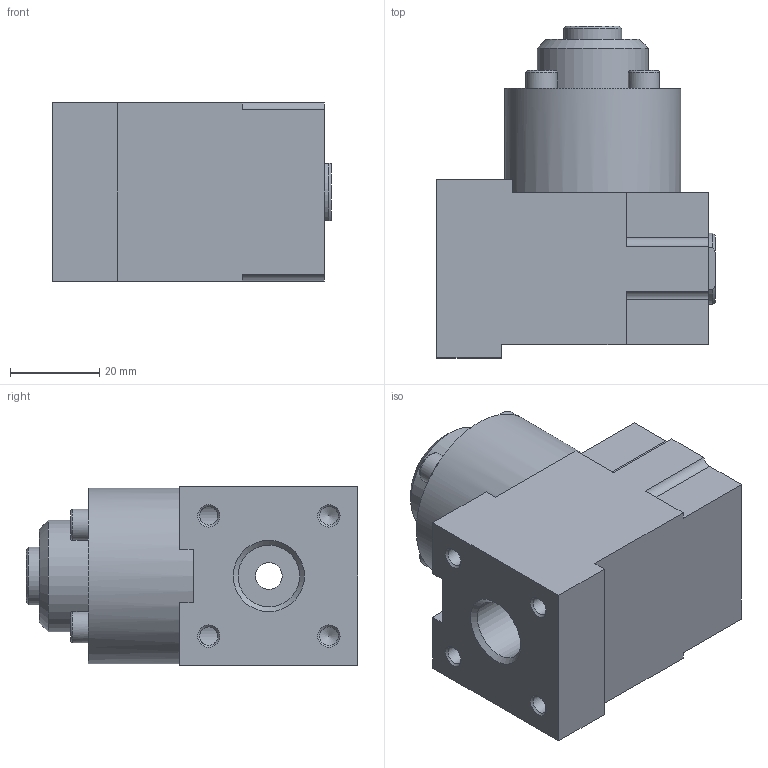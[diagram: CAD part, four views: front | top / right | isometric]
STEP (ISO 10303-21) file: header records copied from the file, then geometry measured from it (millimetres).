
FILE_DESCRIPTION( ( 'STEP AP214' ), ' ' );
FILE_NAME( 'p:/temp/worker_48/3100_3564/app_60_02016022515293667641020192d056f_000000_00_00_000000/format_1/L1-N01606.stp', '2016-02-25T14:29:38', ( '' ), ( '' ), ' ', 'PARTsolutions', ' ' );
FILE_SCHEMA( ( 'AUTOMOTIVE_DESIGN { 1 0 10303 214 1 1 1 1 }' ) );
Length unit declared in the file: millimetre
Products named in the file (1): _L1-N01606
Bounding box: 62.5 x 74.5 x 40 mm (x, y, z)
Volume: 113972.9 mm3; surface area: 19496.1 mm2
Topology: 1 solids, 1 shells, 122 faces, 306 edges, 196 vertices
Faces by surface type: plane 68, cylinder 27, cone 23, torus 4
Full cylindrical faces by diameter (mm): 4.134 x8, 6 x1, 7 x4, 8.566 x2, 13 x1, 13.835 x1, 25 x1, 39.5 x1
Entity records: 4376 total; most frequent: CARTESIAN_POINT 675, DIRECTION 558, ORIENTED_EDGE 488, EDGE_CURVE 244, AXIS2_PLACEMENT_3D 197, VERTEX_POINT 186, EDGE_LOOP 182, LINE 164
